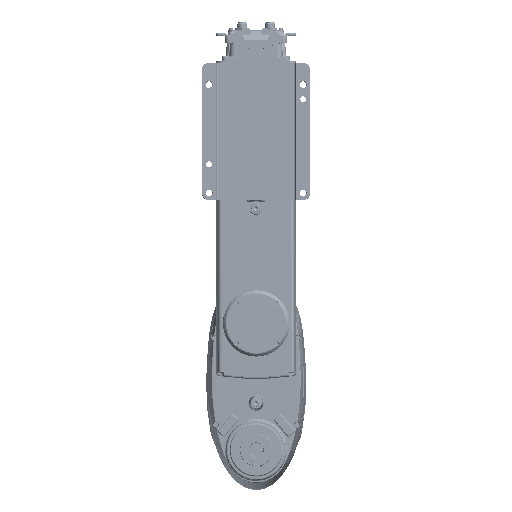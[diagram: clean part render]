
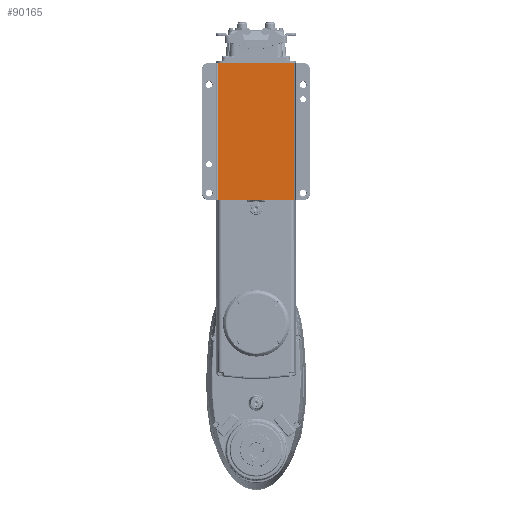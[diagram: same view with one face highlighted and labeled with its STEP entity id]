
A CAD part, front view. The second image highlights one B-rep face of the part: STEP entity #90165.
In plain terms, the highlighted planar face has unit normal (0, -1, 0).
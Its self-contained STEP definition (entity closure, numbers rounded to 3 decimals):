
#558 = ORIENTED_EDGE ( 'NONE', *, *, #222456, .T. ) ;
#3724 = VERTEX_POINT ( 'NONE', #4768 ) ;
#4768 = CARTESIAN_POINT ( 'NONE',  ( 52., -12., 134.5 ) ) ;
#13226 = LINE ( 'NONE', #87033, #20690 ) ;
#14238 = VERTEX_POINT ( 'NONE', #33694 ) ;
#15634 = VECTOR ( 'NONE', #220934, 1000. ) ;
#20690 = VECTOR ( 'NONE', #160787, 1000. ) ;
#22628 = LINE ( 'NONE', #58912, #216250 ) ;
#32724 = PLANE ( 'NONE',  #94201 ) ;
#33694 = CARTESIAN_POINT ( 'NONE',  ( -52., -12., 134.5 ) ) ;
#40672 = ORIENTED_EDGE ( 'NONE', *, *, #83169, .F. ) ;
#43781 = LINE ( 'NONE', #135789, #46390 ) ;
#46390 = VECTOR ( 'NONE', #193792, 1000. ) ;
#58912 = CARTESIAN_POINT ( 'NONE',  ( 52., -12., 40. ) ) ;
#75150 = EDGE_LOOP ( 'NONE', ( #558, #40672, #178643, #211563 ) ) ;
#76611 = CARTESIAN_POINT ( 'NONE',  ( 52., -12., -54.5 ) ) ;
#83169 = EDGE_CURVE ( 'NONE', #3724, #219159, #22628, .T. ) ;
#83962 = EDGE_CURVE ( 'NONE', #3724, #14238, #109698, .T. ) ;
#87033 = CARTESIAN_POINT ( 'NONE',  ( 0., -12., -54.5 ) ) ;
#88380 = DIRECTION ( 'NONE',  ( 0., 0., 1. ) ) ;
#90165 = ADVANCED_FACE ( 'NONE', ( #222521 ), #32724, .F. ) ;
#91023 = CARTESIAN_POINT ( 'NONE',  ( -52., -12., -54.5 ) ) ;
#94201 = AXIS2_PLACEMENT_3D ( 'NONE', #145218, #162140, #88380 ) ;
#109698 = LINE ( 'NONE', #112065, #15634 ) ;
#112065 = CARTESIAN_POINT ( 'NONE',  ( 0., -12., 134.5 ) ) ;
#132694 = DIRECTION ( 'NONE',  ( 0., 0., -1. ) ) ;
#135789 = CARTESIAN_POINT ( 'NONE',  ( -52., -12., 40. ) ) ;
#145218 = CARTESIAN_POINT ( 'NONE',  ( -52., -12., -54.5 ) ) ;
#160787 = DIRECTION ( 'NONE',  ( 1., 0., 0. ) ) ;
#162140 = DIRECTION ( 'NONE',  ( 0., 1., 0. ) ) ;
#172078 = VERTEX_POINT ( 'NONE', #91023 ) ;
#178643 = ORIENTED_EDGE ( 'NONE', *, *, #83962, .T. ) ;
#193792 = DIRECTION ( 'NONE',  ( 0., 0., 1. ) ) ;
#211563 = ORIENTED_EDGE ( 'NONE', *, *, #237196, .F. ) ;
#216250 = VECTOR ( 'NONE', #132694, 1000. ) ;
#219159 = VERTEX_POINT ( 'NONE', #76611 ) ;
#220934 = DIRECTION ( 'NONE',  ( -1., 0., 0. ) ) ;
#222456 = EDGE_CURVE ( 'NONE', #172078, #219159, #13226, .T. ) ;
#222521 = FACE_OUTER_BOUND ( 'NONE', #75150, .T. ) ;
#237196 = EDGE_CURVE ( 'NONE', #172078, #14238, #43781, .T. ) ;
